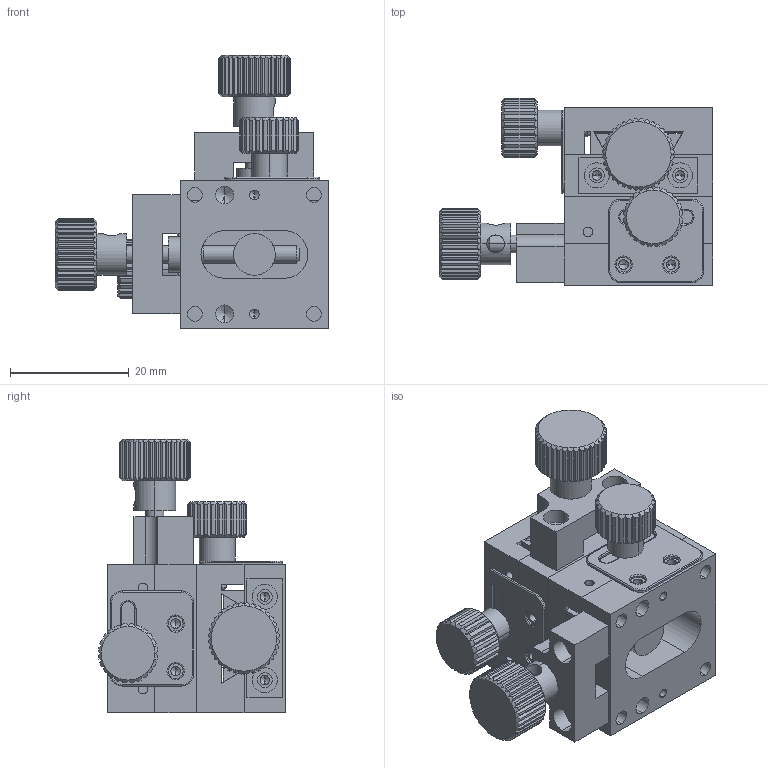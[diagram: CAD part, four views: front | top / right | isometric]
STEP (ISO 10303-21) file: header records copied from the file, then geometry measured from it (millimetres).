
FILE_DESCRIPTION (( 'STEP AP203' ), '1' );
FILE_NAME ('JD2-25S.STEP', '2013-12-24T02:04:56', ( 'MTT' ), ( '' ), 'SwSTEP 2.0', 'SolidWorks 2013', '' );
FILE_SCHEMA (( 'CONFIG_CONTROL_DESIGN' ));
Length unit declared in the file: millimetre
Products named in the file (17): Screw Guide-L; Gripper-R; Gripper-L; Screw Head-R; Screw Head-L; Check Plate; JD1-25S-L; Check Bolt; JD2-25S; JD1-25S-R; Bottom Plate-R; Bottom Plate-L; Top Plate-R; Top Plate-L; Screw-R; Screw-L; Screw Guide-R
Assembly tree (18 placements, depth 3):
  JD2-25S
    JD1-25S-R
      Bottom Plate-R
      Top Plate-R
      Screw-R
      Screw Guide-R
      Gripper-R
      Screw Head-R
      Check Plate
      Check Bolt
    JD1-25S-L
      Bottom Plate-L
      Top Plate-L
      Screw-L
      Screw Guide-L
      Gripper-L
      Screw Head-L
      Check Plate
      Check Bolt
Bounding box: 46 x 31.49 x 46 mm (x, y, z)
Volume: 20223.1 mm3; surface area: 18366 mm2
Topology: 16 solids, 16 shells, 912 faces, 2438 edges, 1530 vertices
Faces by surface type: cylinder 388, plane 386, cone 116, torus 22
Entity records: 27292 total; most frequent: CARTESIAN_POINT 6235, ORIENTED_EDGE 4064, DIRECTION 3915, EDGE_CURVE 2032, AXIS2_PLACEMENT_3D 1516, VERTEX_POINT 1320, EDGE_LOOP 930, VECTOR 883
